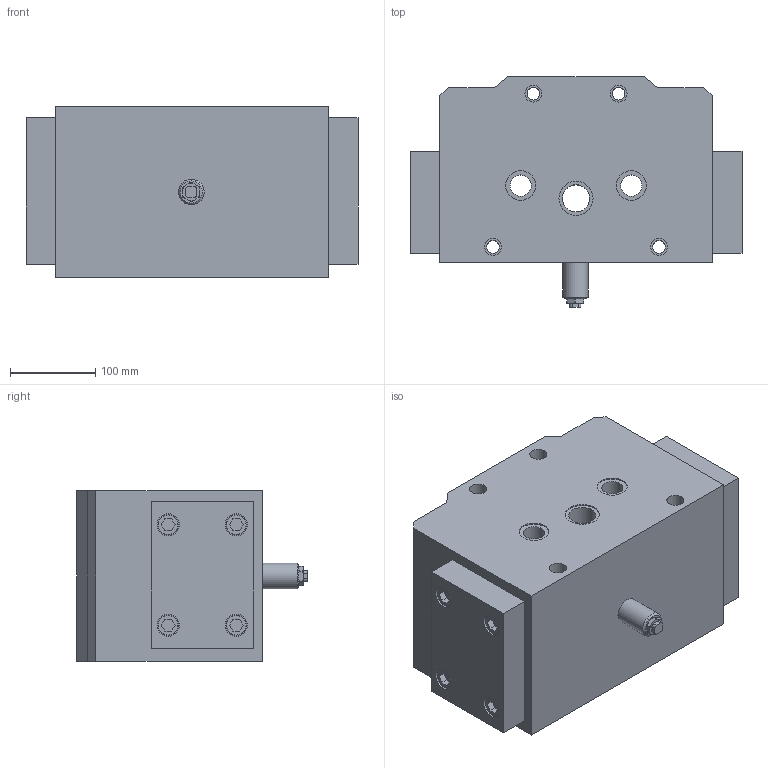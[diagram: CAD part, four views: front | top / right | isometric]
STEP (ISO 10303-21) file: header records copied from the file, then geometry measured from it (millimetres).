
FILE_DESCRIPTION(/* description */ (''),/* implementation_level */ '2;1');
FILE_NAME(/* name */ '27.prt.stp',/* time_stamp */ '2023-05-03T14:45:35+08:00',/* author */ (''),/* organization */ (''),/* preprocessor_version */ 'ST-DEVELOPER v16.7',/* originating_system */ 'SIEMENS PLM Software NX 12.0',/* authorisation */ '');
FILE_SCHEMA (('AUTOMOTIVE_DESIGN { 1 0 10303 214 3 1 1 1 }'));
Length unit declared in the file: millimetre
Products named in the file (1): 27
Bounding box: 390 x 271 x 200 mm (x, y, z)
Volume: 14461364 mm3; surface area: 645595.7 mm2
Topology: 14 solids, 14 shells, 279 faces, 683 edges, 455 vertices
Faces by surface type: plane 167, cylinder 75, torus 20, cone 17
Full cylindrical faces by diameter (mm): 14.1 x8, 15 x4, 16 x8, 18 x8, 20 x4, 24 x8, 25 x2, 26 x8, 30 x1, 32 x1, 35 x2, 40 x1
Entity records: 7685 total; most frequent: CARTESIAN_POINT 1410, DIRECTION 1278, ORIENTED_EDGE 1094, EDGE_CURVE 547, AXIS2_PLACEMENT_3D 475, EDGE_LOOP 436, VERTEX_POINT 415, LINE 328
